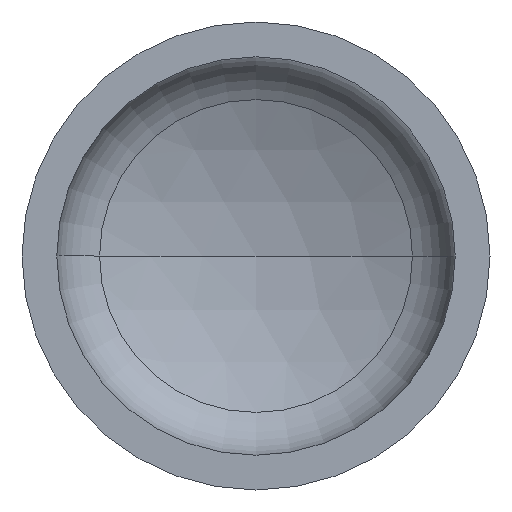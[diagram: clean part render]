
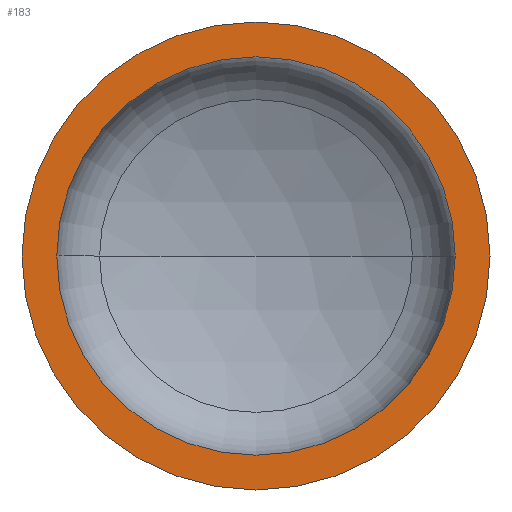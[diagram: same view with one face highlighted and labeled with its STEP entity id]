
A CAD part, front view. The second image highlights one B-rep face of the part: STEP entity #183.
In plain terms, the highlighted planar face has unit normal (0, -1, 0).
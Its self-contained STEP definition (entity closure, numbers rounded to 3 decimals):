
#19 = AXIS2_PLACEMENT_3D ( 'NONE', #220, #236, #235 ) ;
#32 = DIRECTION ( 'NONE',  ( 0., -1., 0. ) ) ;
#40 = ORIENTED_EDGE ( 'NONE', *, *, #91, .F. ) ;
#49 = FACE_BOUND ( 'NONE', #59, .T. ) ;
#50 = VERTEX_POINT ( 'NONE', #281 ) ;
#52 = ORIENTED_EDGE ( 'NONE', *, *, #89, .T. ) ;
#53 = AXIS2_PLACEMENT_3D ( 'NONE', #373, #376, #299 ) ;
#59 = EDGE_LOOP ( 'NONE', ( #40, #187 ) ) ;
#61 = AXIS2_PLACEMENT_3D ( 'NONE', #333, #353, #351 ) ;
#89 = EDGE_CURVE ( 'NONE', #50, #214, #397, .T. ) ;
#91 = EDGE_CURVE ( 'NONE', #124, #164, #392, .T. ) ;
#124 = VERTEX_POINT ( 'NONE', #379 ) ;
#125 = ORIENTED_EDGE ( 'NONE', *, *, #354, .T. ) ;
#126 = CARTESIAN_POINT ( 'NONE',  ( 0., 0., 0. ) ) ;
#144 = AXIS2_PLACEMENT_3D ( 'NONE', #126, #188, #313 ) ;
#164 = VERTEX_POINT ( 'NONE', #255 ) ;
#170 = CARTESIAN_POINT ( 'NONE',  ( 350., 0., 0. ) ) ;
#180 = FACE_OUTER_BOUND ( 'NONE', #225, .T. ) ;
#183 = ADVANCED_FACE ( 'NONE', ( #49, #180 ), #273, .F. ) ;
#187 = ORIENTED_EDGE ( 'NONE', *, *, #332, .F. ) ;
#188 = DIRECTION ( 'NONE',  ( 0., -1., 0. ) ) ;
#206 = DIRECTION ( 'NONE',  ( 1., 0., 0. ) ) ;
#214 = VERTEX_POINT ( 'NONE', #170 ) ;
#220 = CARTESIAN_POINT ( 'NONE',  ( -350., 0., 0. ) ) ;
#225 = EDGE_LOOP ( 'NONE', ( #125, #52 ) ) ;
#227 = CIRCLE ( 'NONE', #386, 298. ) ;
#235 = DIRECTION ( 'NONE',  ( -1., 0., 0. ) ) ;
#236 = DIRECTION ( 'NONE',  ( 0., 1., 0. ) ) ;
#255 = CARTESIAN_POINT ( 'NONE',  ( -298., 0., 0. ) ) ;
#259 = CARTESIAN_POINT ( 'NONE',  ( 0., 0., 0. ) ) ;
#273 = PLANE ( 'NONE',  #19 ) ;
#281 = CARTESIAN_POINT ( 'NONE',  ( -350., 0., 0. ) ) ;
#299 = DIRECTION ( 'NONE',  ( 1., 0., 0. ) ) ;
#313 = DIRECTION ( 'NONE',  ( 1., 0., 0. ) ) ;
#332 = EDGE_CURVE ( 'NONE', #164, #124, #227, .T. ) ;
#333 = CARTESIAN_POINT ( 'NONE',  ( 0., 0., 0. ) ) ;
#351 = DIRECTION ( 'NONE',  ( 1., 0., 0. ) ) ;
#353 = DIRECTION ( 'NONE',  ( 0., -1., 0. ) ) ;
#354 = EDGE_CURVE ( 'NONE', #214, #50, #410, .T. ) ;
#373 = CARTESIAN_POINT ( 'NONE',  ( 0., 0., 0. ) ) ;
#376 = DIRECTION ( 'NONE',  ( 0., -1., 0. ) ) ;
#379 = CARTESIAN_POINT ( 'NONE',  ( 298., 0., 0. ) ) ;
#386 = AXIS2_PLACEMENT_3D ( 'NONE', #259, #32, #206 ) ;
#392 = CIRCLE ( 'NONE', #53, 298. ) ;
#397 = CIRCLE ( 'NONE', #61, 350. ) ;
#410 = CIRCLE ( 'NONE', #144, 350. ) ;
